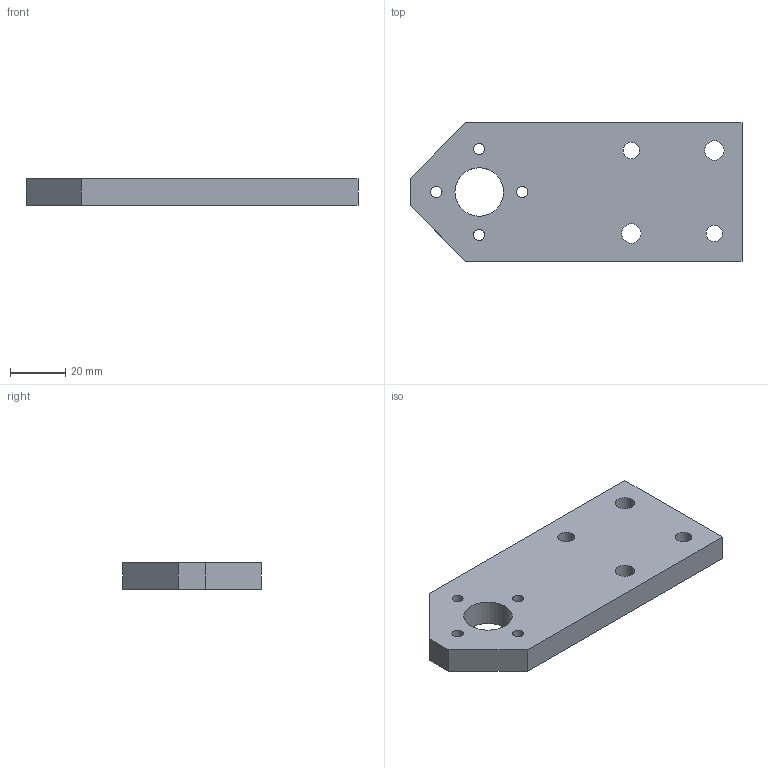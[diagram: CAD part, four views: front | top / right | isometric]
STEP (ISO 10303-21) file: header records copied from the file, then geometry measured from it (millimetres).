
FILE_DESCRIPTION(/* description */ (''),/* implementation_level */ '2;1');
FILE_NAME(/* name */ 'C:\Local Work Area\Progetti\AP\CALIBRI\27.XX SUPPORTI\27.XX STP\27.20.stp',/* time_stamp */ '2016-05-06T09:25:07+02:00',/* author */ ('CAD2'),/* organization */ (''),/* preprocessor_version */ 'ST-DEVELOPER v15.2',/* originating_system */ 'Autodesk Inventor 2014',/* authorisation */ '0 mm^3');
FILE_SCHEMA (('CONFIG_CONTROL_DESIGN'));
Length unit declared in the file: millimetre
Products named in the file (1): 27.20
Bounding box: 120 x 50 x 9.5 mm (x, y, z)
Volume: 49152.8 mm3; surface area: 15139.1 mm2
Topology: 1 solids, 1 shells, 17 faces, 54 edges, 39 vertices
Faces by surface type: cylinder 9, plane 8
Full cylindrical faces by diameter (mm): 4 x2, 4.134 x2, 6 x2, 7 x2, 17.5 x1
Entity records: 552 total; most frequent: DIRECTION 90, CARTESIAN_POINT 84, ORIENTED_EDGE 72, EDGE_LOOP 44, EDGE_CURVE 36, AXIS2_PLACEMENT_3D 36, VERTEX_POINT 30, FACE_BOUND 28
